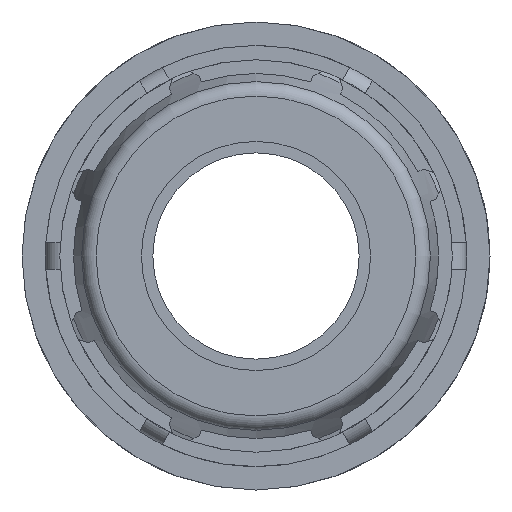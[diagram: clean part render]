
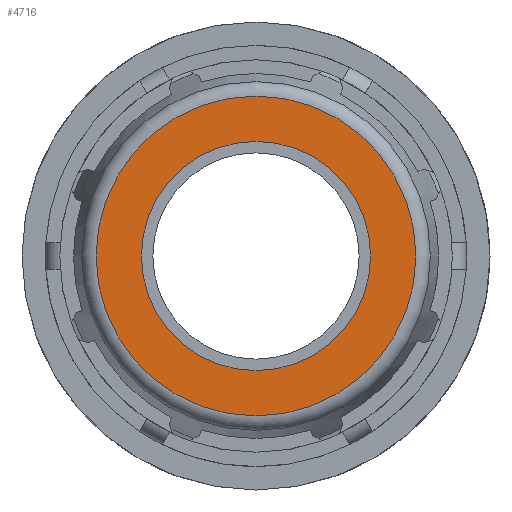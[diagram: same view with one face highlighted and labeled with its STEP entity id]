
A CAD part, left-side view. The second image highlights one B-rep face of the part: STEP entity #4716.
In plain terms, the highlighted planar face has unit normal (-1, 0, 0).
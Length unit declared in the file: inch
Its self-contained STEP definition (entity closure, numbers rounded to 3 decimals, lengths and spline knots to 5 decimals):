
#58=FACE_BOUND('',#615,.T.);
#380=FACE_OUTER_BOUND('',#614,.T.);
#614=EDGE_LOOP('',(#3732,#3733));
#615=EDGE_LOOP('',(#3734,#3735));
#843=CIRCLE('',#5110,2.43721);
#844=CIRCLE('',#5111,2.43721);
#859=CIRCLE('',#5128,1.74606);
#860=CIRCLE('',#5129,1.74606);
#2025=VERTEX_POINT('',#7936);
#2026=VERTEX_POINT('',#7938);
#2052=VERTEX_POINT('',#8015);
#2053=VERTEX_POINT('',#8016);
#2636=EDGE_CURVE('',#2025,#2026,#843,.T.);
#2637=EDGE_CURVE('',#2026,#2025,#844,.T.);
#2669=EDGE_CURVE('',#2052,#2053,#859,.T.);
#2670=EDGE_CURVE('',#2053,#2052,#860,.T.);
#3732=ORIENTED_EDGE('',*,*,#2637,.F.);
#3733=ORIENTED_EDGE('',*,*,#2636,.F.);
#3734=ORIENTED_EDGE('',*,*,#2669,.T.);
#3735=ORIENTED_EDGE('',*,*,#2670,.T.);
#4290=PLANE('',#5127);
#4716=ADVANCED_FACE('',(#380,#58),#4290,.T.);
#5110=AXIS2_PLACEMENT_3D('',#7939,#6142,#6143);
#5111=AXIS2_PLACEMENT_3D('',#7940,#6144,#6145);
#5127=AXIS2_PLACEMENT_3D('',#8014,#6185,#6186);
#5128=AXIS2_PLACEMENT_3D('',#8017,#6187,#6188);
#5129=AXIS2_PLACEMENT_3D('',#8018,#6189,#6190);
#6142=DIRECTION('center_axis',(1.,0.,0.));
#6143=DIRECTION('ref_axis',(0.,-1.,0.));
#6144=DIRECTION('center_axis',(1.,0.,0.));
#6145=DIRECTION('ref_axis',(0.,-1.,0.));
#6185=DIRECTION('center_axis',(-1.,0.,0.));
#6186=DIRECTION('ref_axis',(0.,0.,1.));
#6187=DIRECTION('center_axis',(1.,0.,0.));
#6188=DIRECTION('ref_axis',(0.,0.,-1.));
#6189=DIRECTION('center_axis',(1.,0.,0.));
#6190=DIRECTION('ref_axis',(0.,0.,-1.));
#7936=CARTESIAN_POINT('',(-6.78992,0.,2.43721));
#7938=CARTESIAN_POINT('',(-6.78992,2.43721,0.));
#7939=CARTESIAN_POINT('Origin',(-6.78992,0.,0.));
#7940=CARTESIAN_POINT('Origin',(-6.78992,0.,0.));
#8014=CARTESIAN_POINT('Origin',(-6.78992,2.61909,0.));
#8015=CARTESIAN_POINT('',(-6.78992,1.74606,0.));
#8016=CARTESIAN_POINT('',(-6.78992,-1.74606,0.));
#8017=CARTESIAN_POINT('Origin',(-6.78992,0.,0.));
#8018=CARTESIAN_POINT('Origin',(-6.78992,0.,0.));
